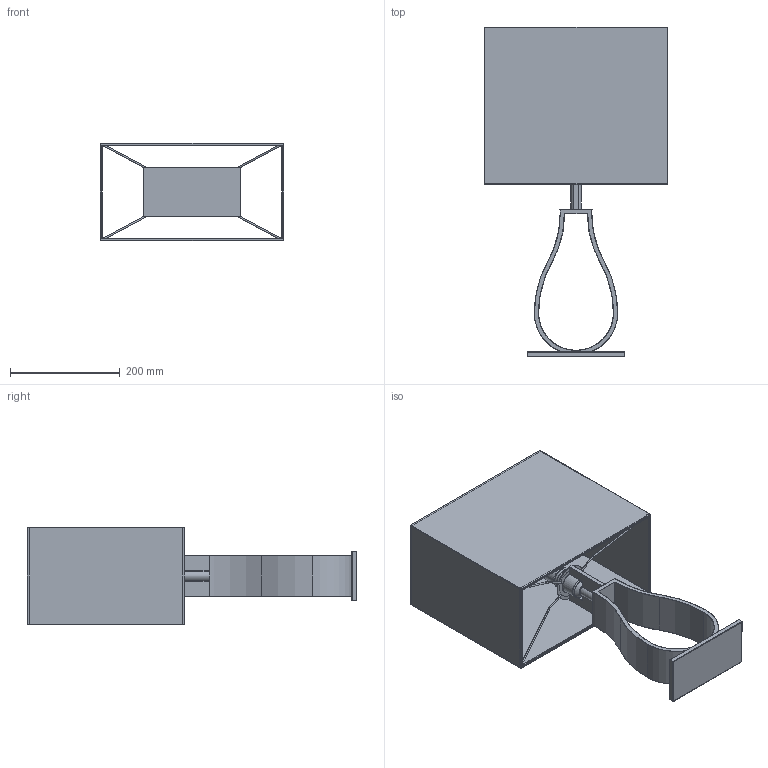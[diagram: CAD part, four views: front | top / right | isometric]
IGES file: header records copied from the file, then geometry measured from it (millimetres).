
Start section: SolidWorks IGES file using analytic representation for surfaces
Global section: file name: C:\Users\pbake\Google Drive\CAD Library\IKEA Klabb Lamp (Small)\Lamp - IKEA Klabb (S).IGS; native system: SolidWorks 2015; preprocessor: SolidWorks 2015; author: pbake; date: 160925.014841; units: millimetre
Bounding box: 335 x 601 x 177 mm (x, y, z)
Surface area: 791791.4 mm2 (no closed solid volume)
Topology: 0 solids, 0 shells, 268 faces, 2804 edges, 2773 vertices
Faces by surface type: revolution 151, bspline 117
